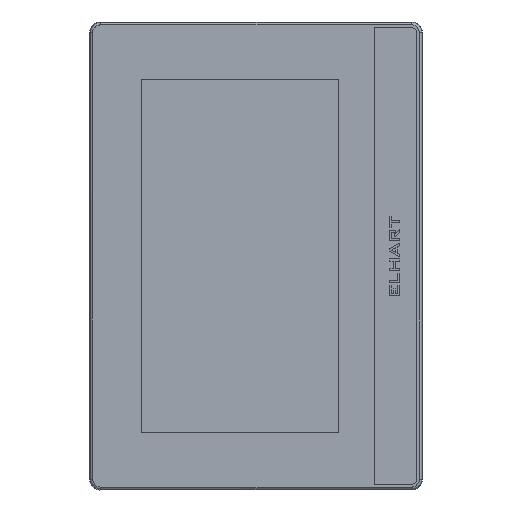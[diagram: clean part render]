
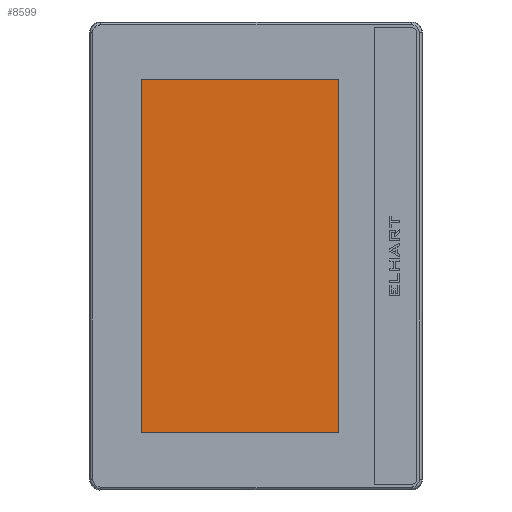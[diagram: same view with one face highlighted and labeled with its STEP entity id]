
A CAD part, top view. The second image highlights one B-rep face of the part: STEP entity #8599.
In plain terms, the highlighted planar face has unit normal (0, 0, 1).
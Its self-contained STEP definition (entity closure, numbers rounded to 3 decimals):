
#8599=ADVANCED_FACE('',(#19160),#19162,.T.);
#19160=FACE_BOUND('',#19161,.T.);
#19161=EDGE_LOOP('',(#25609,#25610,#25611,#25612));
#19162=PLANE('',#19163);
#19163=AXIS2_PLACEMENT_3D('',#19164,#19165,#19166);
#19164=CARTESIAN_POINT('',(0.,0.,5.39));
#19165=DIRECTION('',(0.,0.,1.));
#19166=DIRECTION('',(1.,0.,0.));
#25609=ORIENTED_EDGE('',*,*,#29372,.T.);
#25610=ORIENTED_EDGE('',*,*,#29370,.T.);
#25611=ORIENTED_EDGE('',*,*,#29368,.T.);
#25612=ORIENTED_EDGE('',*,*,#29374,.T.);
#29368=EDGE_CURVE('',#34122,#34120,#34123,.T.);
#29370=EDGE_CURVE('',#34125,#34122,#34126,.T.);
#29372=EDGE_CURVE('',#34128,#34125,#34129,.T.);
#29374=EDGE_CURVE('',#34120,#34128,#34131,.T.);
#34120=VERTEX_POINT('',#54139);
#34122=VERTEX_POINT('',#54143);
#34123=LINE('',#54144,#54145);
#34125=VERTEX_POINT('',#54150);
#34126=LINE('',#54151,#54152);
#34128=VERTEX_POINT('',#54157);
#34129=LINE('',#54158,#54159);
#34131=LINE('',#54164,#54165);
#54139=CARTESIAN_POINT('',(35.97,-77.06,5.39));
#54143=CARTESIAN_POINT('',(-49.95,-77.06,5.39));
#54144=CARTESIAN_POINT('',(-49.95,-77.06,5.39));
#54145=VECTOR('',#54146,1.);
#54146=DIRECTION('',(1.,0.,0.));
#54150=CARTESIAN_POINT('',(-49.95,77.02,5.39));
#54151=CARTESIAN_POINT('',(-49.95,77.02,5.39));
#54152=VECTOR('',#54153,1.);
#54153=DIRECTION('',(0.,-1.,0.));
#54157=CARTESIAN_POINT('',(35.97,77.02,5.39));
#54158=CARTESIAN_POINT('',(35.97,77.02,5.39));
#54159=VECTOR('',#54160,1.);
#54160=DIRECTION('',(-1.,0.,0.));
#54164=CARTESIAN_POINT('',(35.97,-77.06,5.39));
#54165=VECTOR('',#54166,1.);
#54166=DIRECTION('',(0.,1.,0.));
